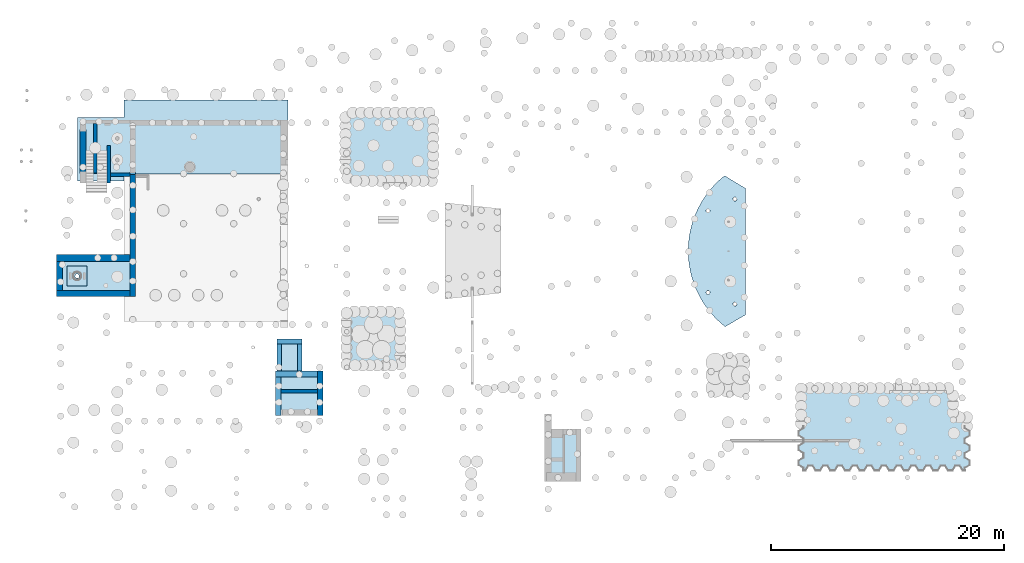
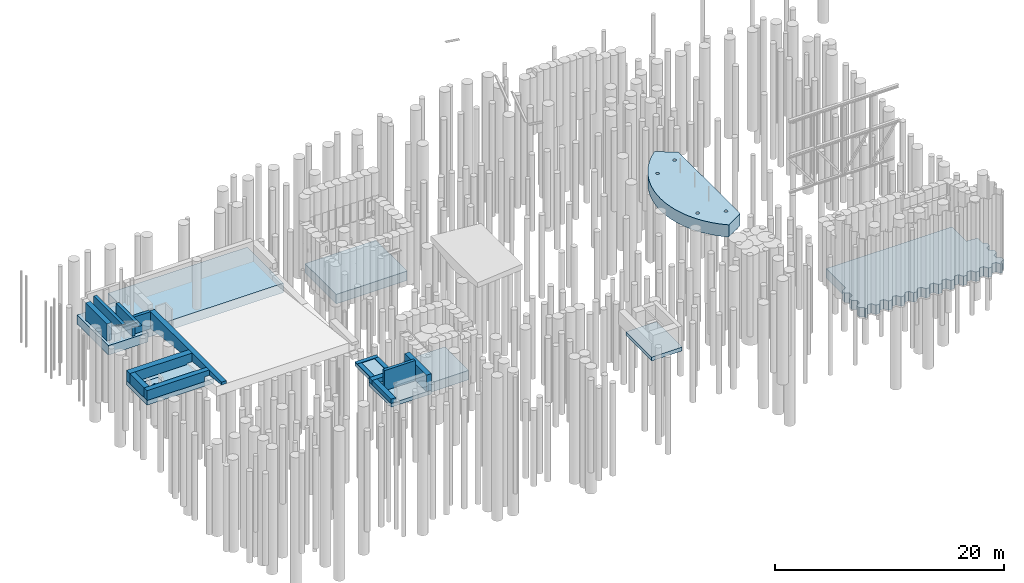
# One storey, part 14 of 104: 15 walls, 10 slabs, 11 openings.
"""IFC2X3 building model written with IfcOpenShell, lengths in millimetres."""

from ifc_helpers import new_model, entity, si_unit, converted_unit, derived_unit, direction, frame, frame_2d, origin, origin_2d_with_axis, place, context, subcontext, project, spatial, polyline, circle_curve, parameter, trimmed, segment, composite_curve, rectangle, circle, outline, extrude, clip, halfspace, bounded_halfspace, material, layer, layer_set, layer_usage, type_object, element, save


model = new_model("IFC2X3")

# Units and contexts
model_context = context("Model", 3, precision=0.01, world=origin(), true_north=direction((6.12303176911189e-17, 1.0)))
body_context = subcontext(model_context, "Body", "Model", "MODEL_VIEW")
ifc_project = project(units=[si_unit("LENGTHUNIT", "METRE", prefix="MILLI"), si_unit("AREAUNIT", "SQUARE_METRE", prefix="MILLI"), si_unit("VOLUMEUNIT", "CUBIC_METRE"), converted_unit("PLANEANGLEUNIT", "DEGREE", entity("IfcRatioMeasure", 0.0174532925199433), si_unit("PLANEANGLEUNIT", "RADIAN"), dimensions=[0, 0, 0, 0, 0, 0, 0]), si_unit("MASSUNIT", "GRAM", prefix="KILO"), derived_unit("MASSDENSITYUNIT", [(si_unit("MASSUNIT", "GRAM", prefix="KILO"), 1), (si_unit("LENGTHUNIT", "METRE"), -3)]), derived_unit("MOMENTOFINERTIAUNIT", [(si_unit("LENGTHUNIT", "METRE"), 4)]), si_unit("TIMEUNIT", "SECOND"), si_unit("FREQUENCYUNIT", "HERTZ"), si_unit("THERMODYNAMICTEMPERATUREUNIT", "DEGREE_CELSIUS"), derived_unit("THERMALTRANSMITTANCEUNIT", [(si_unit("MASSUNIT", "GRAM", prefix="KILO"), 1), (si_unit("THERMODYNAMICTEMPERATUREUNIT", "KELVIN"), -1), (si_unit("TIMEUNIT", "SECOND"), -3)]), derived_unit("VOLUMETRICFLOWRATEUNIT", [(si_unit("LENGTHUNIT", "METRE"), 3), (si_unit("TIMEUNIT", "SECOND"), -1)]), si_unit("ELECTRICCURRENTUNIT", "AMPERE"), si_unit("ELECTRICVOLTAGEUNIT", "VOLT"), si_unit("POWERUNIT", "WATT"), si_unit("FORCEUNIT", "NEWTON", prefix="KILO"), si_unit("ILLUMINANCEUNIT", "LUX"), si_unit("LUMINOUSFLUXUNIT", "LUMEN"), si_unit("LUMINOUSINTENSITYUNIT", "CANDELA"), derived_unit("USERDEFINED", [(si_unit("MASSUNIT", "GRAM", prefix="KILO"), -1), (si_unit("LENGTHUNIT", "METRE"), -2), (si_unit("TIMEUNIT", "SECOND"), 3), (si_unit("LUMINOUSFLUXUNIT", "LUMEN"), 1)]), derived_unit("LINEARVELOCITYUNIT", [(si_unit("LENGTHUNIT", "METRE"), 1), (si_unit("TIMEUNIT", "SECOND"), -1)]), si_unit("PRESSUREUNIT", "PASCAL"), derived_unit("USERDEFINED", [(si_unit("LENGTHUNIT", "METRE"), -2), (si_unit("MASSUNIT", "GRAM", prefix="KILO"), 1), (si_unit("TIMEUNIT", "SECOND"), -2)]), derived_unit("LINEARFORCEUNIT", [(si_unit("MASSUNIT", "GRAM", prefix="KILO"), 1), (si_unit("LENGTHUNIT", "METRE"), 1), (si_unit("TIMEUNIT", "SECOND"), -2), (si_unit("LENGTHUNIT", "METRE"), -1)]), derived_unit("PLANARFORCEUNIT", [(si_unit("MASSUNIT", "GRAM", prefix="KILO"), 1), (si_unit("LENGTHUNIT", "METRE"), 1), (si_unit("TIMEUNIT", "SECOND"), -2), (si_unit("LENGTHUNIT", "METRE"), -2)])], contexts=[model_context])

# Site, building, storey
site_placement = place(None, origin())
site = spatial("IfcSite", under=ifc_project, at=site_placement, Name="Theater aan de Parade", CompositionType="ELEMENT")
building_placement = place(site_placement, origin())
building = spatial("IfcBuilding", under=site, at=building_placement, Name="Theater aan de Parade", CompositionType="ELEMENT")
storey_placement = place(building_placement, frame((0.0, 0.0, -5520.0)))
storey = spatial("IfcBuildingStorey", under=building, at=storey_placement, Name="-2 kelder", CompositionType="ELEMENT", Elevation=-5520.0)

# Slab, openings
ifc_material_1 = material(Name="00_PBT_MAT_beton t.p.g.")
ifc_layer_1 = layer(ifc_material_1, 1300.0)
ifc_layer_set_1 = layer_set([ifc_layer_1], Name="Foundation Slab:13_PBT_FS_beton t.p.g._d=1300_bestaand")
ifc_layer_usage_1 = layer_usage(ifc_layer_set_1, "AXIS3", "POSITIVE", 0.0)
slab_type_1 = type_object("IfcSlabType", Name="Foundation Slab:13_PBT_FS_beton t.p.g._d=1300_bestaand", PredefinedType="BASESLAB", material=ifc_layer_set_1)
slab_1_placement = place(storey_placement, frame((64117.9856623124, 25972.8245508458, -300.0)))
slab_1 = element("IfcSlab", 1, at=slab_1_placement, inside=storey, type_object=slab_type_1, material=ifc_layer_usage_1, Name="Foundation Slab:13_PBT_FS_beton t.p.g._d=1300_bestaand", ObjectType="Foundation Slab:13_PBT_FS_beton t.p.g._d=1300_bestaand", PredefinedType="BASESLAB", context=body_context, shape_type="SweptSolid", body=[
    extrude(outline(composite_curve([segment(polyline([(-1580.15372492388, -5559.71459536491), (148.596425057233, -6574.17060615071)]), True, "CONTINUOUS"), segment(trimmed(circle_curve(frame_2d((-4906.79468890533, -81.5485075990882), x_axis=(-1.0, 0.0)), 8228.67674840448), [parameter(127.905619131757)], [parameter(231.591287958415)], True, "PARAMETER"), True, "CONTINUOUS"), segment(polyline([(205.410107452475, 6366.43436689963), (-1580.15372492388, 5285.72428137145)]), True, "CONTINUOUS"), segment(polyline([(-1580.15372492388, 5285.72428137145), (-1580.15372492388, -5559.71459536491)]), True, "CONTINUOUS")], self_intersect=False)), frame((3321.86061276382, 6574.17060615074, 1300.0), z_axis=(0.0, 0.0, -1.0), x_axis=(-1.0, 0.0, 0.0)), (0.0, 0.0, 1.0), 1300.0),
])
opening_1_placement = place(slab_1_placement, frame((4002.01433768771, 10937.175449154, 1300.0)))
element("IfcOpeningElement", 2, at=opening_1_placement, cuts=slab_1, Name="Foundation Slab:13_PBT_FS_beton t.p.g._d=1300_bestaand:2", ObjectType="Opening", context=body_context, shape_type="SweptSolid", body=[
    extrude(circle(Radius=161.95, at=origin_2d_with_axis()), frame((0.0, 0.0, 0.0), z_axis=(0.0, 0.0, -1.0), x_axis=(1.0, 0.0, 0.0)), (0.0, 0.0, 1.0), 1300.0),
])
opening_2_placement = place(slab_1_placement, frame((1702.01433768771, 9937.17544915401, 1300.0)))
element("IfcOpeningElement", 3, at=opening_2_placement, cuts=slab_1, Name="Foundation Slab:13_PBT_FS_beton t.p.g._d=1300_bestaand:3", ObjectType="Opening", context=body_context, shape_type="SweptSolid", body=[
    extrude(circle(Radius=161.95, at=origin_2d_with_axis()), frame((0.0, 0.0, 0.0), z_axis=(0.0, 0.0, -1.0), x_axis=(1.0, 0.0, 0.0)), (0.0, 0.0, 1.0), 1300.0),
])
opening_3_placement = place(slab_1_placement, frame((4002.01433768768, 1937.17544915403, 1300.0)))
element("IfcOpeningElement", 4, at=opening_3_placement, cuts=slab_1, Name="Foundation Slab:13_PBT_FS_beton t.p.g._d=1300_bestaand:4", ObjectType="Opening", context=body_context, shape_type="SweptSolid", body=[
    extrude(circle(Radius=161.95, at=origin_2d_with_axis()), frame((0.0, 0.0, 0.0), z_axis=(0.0, 0.0, -1.0), x_axis=(1.0, 0.0, 0.0)), (0.0, 0.0, 1.0), 1300.0),
])
opening_4_placement = place(slab_1_placement, frame((1702.01433768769, 2937.17544915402, 1300.0)))
element("IfcOpeningElement", 5, at=opening_4_placement, cuts=slab_1, Name="Foundation Slab:13_PBT_FS_beton t.p.g._d=1300_bestaand:5", ObjectType="Opening", context=body_context, shape_type="SweptSolid", body=[
    extrude(circle(Radius=161.95, at=origin_2d_with_axis()), frame((0.0, 0.0, 0.0), z_axis=(0.0, 0.0, -1.0), x_axis=(1.0, 0.0, 0.0)), (0.0, 0.0, 1.0), 1300.0),
])

# Slabs
ifc_layer_2 = layer(ifc_material_1, 400.0)
ifc_layer_set_2 = layer_set([ifc_layer_2], Name="Foundation Slab:13_PBT_FS_beton t.p.g._d=400_bestaand")
ifc_layer_usage_2 = layer_usage(ifc_layer_set_2, "AXIS3", "POSITIVE", 0.0)
slab_type_2 = type_object("IfcSlabType", Name="Foundation Slab:13_PBT_FS_beton t.p.g._d=400_bestaand", PredefinedType="BASESLAB", material=ifc_layer_set_2)
slab_2_placement = place(storey_placement, origin())
element("IfcSlab", 6, at=slab_2_placement, inside=storey, type_object=slab_type_2, material=ifc_layer_usage_2, Name="Foundation Slab:13_PBT_FS_beton t.p.g._d=400_bestaand", ObjectType="Foundation Slab:13_PBT_FS_beton t.p.g._d=400_bestaand", PredefinedType="BASESLAB", context=body_context, shape_type="SweptSolid", body=[
    extrude(rectangle(XDim=4490.0000000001, YDim=3090.0, at=frame_2d((0.0, -8.64019966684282e-12), x_axis=(1.0, 0.0))), frame((53370.0, 14955.0, 320.0), z_axis=(0.0, 0.0, -1.0), x_axis=(0.0, 1.0, 0.0)), (0.0, 0.0, 1.0), 400.0),
])
ifc_layer_usage_3 = layer_usage(ifc_layer_set_2, "AXIS3", "POSITIVE", 0.0)
slab_type_3 = type_object("IfcSlabType", Name="Foundation Slab:13_PBT_FS_beton t.p.g._d=400_bestaand", PredefinedType="BASESLAB", material=ifc_layer_set_2)
slab_3_placement = place(storey_placement, origin())
element("IfcSlab", 7, at=slab_3_placement, inside=storey, type_object=slab_type_3, material=ifc_layer_usage_3, Name="Foundation Slab:13_PBT_FS_beton t.p.g._d=400_bestaand", ObjectType="Foundation Slab:13_PBT_FS_beton t.p.g._d=400_bestaand", PredefinedType="BASESLAB", context=body_context, shape_type="SweptSolid", body=[
    extrude(rectangle(XDim=3800.00000000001, YDim=4100.00000000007, at=origin_2d_with_axis()), frame((30790.0, 20265.0, 20.0), z_axis=(0.0, 0.0, -1.0), x_axis=(0.0, 1.0, 0.0)), (0.0, 0.0, 1.0), 400.0),
])
ifc_layer_usage_4 = layer_usage(ifc_layer_set_2, "AXIS3", "POSITIVE", 0.0)
slab_type_4 = type_object("IfcSlabType", Name="Foundation Slab:13_PBT_FS_beton t.p.g._d=400_bestaand", PredefinedType="BASESLAB", material=ifc_layer_set_2)
slab_4_placement = place(storey_placement, origin())
element("IfcSlab", 8, at=slab_4_placement, inside=storey, type_object=slab_type_4, material=ifc_layer_usage_4, Name="Foundation Slab:13_PBT_FS_beton t.p.g._d=400_bestaand", ObjectType="Foundation Slab:13_PBT_FS_beton t.p.g._d=400_bestaand", PredefinedType="BASESLAB", context=body_context, shape_type="SweptSolid", body=[
    extrude(rectangle(XDim=2735.0, YDim=2150.0, at=frame_2d((0.0, 2.1600499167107e-12), x_axis=(1.0, 0.0))), frame((29965.0, 23532.4999999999, 420.0), z_axis=(0.0, 0.0, -1.0), x_axis=(0.0, 1.0, 0.0)), (0.0, 0.0, 1.0), 400.0),
])

# Slab, openings
ifc_layer_3 = layer(ifc_material_1, 500.0)
ifc_layer_set_3 = layer_set([ifc_layer_3], Name="Foundation Slab:13_PBT_FS_beton t.p.g._d=500_bestaand")
ifc_layer_usage_5 = layer_usage(ifc_layer_set_3, "AXIS3", "POSITIVE", 0.0)
slab_type_5 = type_object("IfcSlabType", Name="Foundation Slab:13_PBT_FS_beton t.p.g._d=500_bestaand", PredefinedType="BASESLAB", material=ifc_layer_set_3)
slab_5_placement = place(storey_placement, frame((9990.0, 28565.0, 220.0)))
slab_5 = element("IfcSlab", 9, at=slab_5_placement, inside=storey, type_object=slab_type_5, material=ifc_layer_usage_5, Name="Foundation Slab:13_PBT_FS_beton t.p.g._d=500_bestaand", ObjectType="Foundation Slab:13_PBT_FS_beton t.p.g._d=500_bestaand", PredefinedType="BASESLAB", context=body_context, shape_type="SweptSolid", body=[
    extrude(rectangle(XDim=6785.0, YDim=3600.0, at=origin_2d_with_axis()), frame((3392.5, 1800.0, 500.0), z_axis=(0.0, 0.0, -1.0), x_axis=(-1.0, 0.0, 0.0)), (0.0, 0.0, 1.0), 500.0),
])
opening_5_placement = place(slab_5_placement, origin())
element("IfcOpeningElement", 10, at=opening_5_placement, cuts=slab_5, ObjectType="Opening", context=body_context, shape_type="SweptSolid", body=[
    extrude(rectangle(XDim=1700.0, YDim=1700.0, at=origin_2d_with_axis()), frame((1770.0, 1750.0, 250.0), z_axis=(0.0, 0.0, 1.0), x_axis=(-1.0, 0.0, 0.0)), (0.0, 0.0, 1.0), 250.0),
])
opening_6_placement = place(slab_5_placement, frame((1770.0, 1750.0, 500.0)))
element("IfcOpeningElement", 11, at=opening_6_placement, cuts=slab_5, Name="Foundation Slab:13_PBT_FS_beton t.p.g._d=500_bestaand:2", ObjectType="Opening", context=body_context, shape_type="SweptSolid", body=[
    extrude(circle(Radius=350.000000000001, at=origin_2d_with_axis()), frame((0.0, 0.0, 0.0), z_axis=(0.0, 0.0, -1.0), x_axis=(1.0, 0.0, 0.0)), (0.0, 0.0, 1.0), 500.0),
])

# Slabs
ifc_layer_4 = layer(ifc_material_1, 1000.0)
ifc_layer_set_4 = layer_set([ifc_layer_4], Name="Foundation Slab:13_PBT_FS_beton t.p.g._d=1000_bestaand")
ifc_layer_usage_6 = layer_usage(ifc_layer_set_4, "AXIS3", "POSITIVE", 0.0)
slab_type_6 = type_object("IfcSlabType", Name="Foundation Slab:13_PBT_FS_beton t.p.g._d=1000_bestaand", PredefinedType="BASESLAB", material=ifc_layer_set_4)
slab_6_placement = place(storey_placement, origin())
element("IfcSlab", 12, at=slab_6_placement, inside=storey, type_object=slab_type_6, material=ifc_layer_usage_6, Name="Foundation Slab:13_PBT_FS_beton t.p.g._d=1000_bestaand", ObjectType="Foundation Slab:13_PBT_FS_beton t.p.g._d=1000_bestaand", PredefinedType="BASESLAB", context=body_context, shape_type="SweptSolid", body=[
    extrude(outline(polyline([(-3250.0, -6512.5), (2200.0, -6512.5), (2200.0, -2512.50000000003), (3700.0, -2512.50000000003), (3700.0, 11537.5), (-2650.0, 11537.5), (-2650.0, -2512.49999999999), (-3250.0, -2512.49999999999), (-3250.0, -6512.5)])), frame((18287.5000000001, 41700.0, -40.0), z_axis=(0.0, 0.0, -1.0), x_axis=(0.0, 1.0, 0.0)), (0.0, 0.0, 1.0), 1000.0),
])
ifc_layer_5 = layer(ifc_material_1, 250.0)
ifc_layer_set_5 = layer_set([ifc_layer_5], Name="Foundation Slab:13_PBT_FS_beton t.p.g._d=250_bestaand")
ifc_layer_usage_7 = layer_usage(ifc_layer_set_5, "AXIS3", "POSITIVE", 0.0)
slab_type_7 = type_object("IfcSlabType", Name="Foundation Slab:13_PBT_FS_beton t.p.g._d=250_bestaand", PredefinedType="BASESLAB", material=ifc_layer_set_5)
slab_7_placement = place(storey_placement, origin())
element("IfcSlab", 13, at=slab_7_placement, inside=storey, type_object=slab_type_7, material=ifc_layer_usage_7, Name="Foundation Slab:13_PBT_FS_beton t.p.g._d=250_bestaand", ObjectType="Foundation Slab:13_PBT_FS_beton t.p.g._d=250_bestaand", PredefinedType="BASESLAB", context=body_context, shape_type="SweptSolid", body=[
    extrude(outline(polyline([(-850.0, -850.0), (850.0, -850.0), (850.0, 850.0), (-850.0, 850.0), (-850.0, -850.0)]), holes=[composite_curve([segment(trimmed(circle_curve(frame_2d((0.0, 0.0), x_axis=(0.0, -1.0)), 175.0), [parameter(180.0)], [parameter(0.0)], True, "PARAMETER"), False, "CONTINUOUS"), segment(trimmed(circle_curve(frame_2d((0.0, 0.0), x_axis=(0.0, -1.0)), 175.0), [parameter(0.0)], [parameter(180.0)], True, "PARAMETER"), False, "CONTINUOUS")], self_intersect=False)]), frame((11760.0, 30315.0, 470.0), z_axis=(0.0, 0.0, 1.0), x_axis=(0.0, 1.0, 0.0)), (0.0, 0.0, 1.0), 249.999999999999),
])
ifc_material_2 = material(Name="00_PBT_MAT_grout")
ifc_layer_6 = layer(ifc_material_2, 1000.0)
ifc_layer_set_6 = layer_set([ifc_layer_6], Name="Foundation Slab:13_PBT_FS_grout bouwputbodem_d=1000")
ifc_layer_usage_8 = layer_usage(ifc_layer_set_6, "AXIS3", "POSITIVE", 0.0)
slab_type_8 = type_object("IfcSlabType", Name="Foundation Slab:13_PBT_FS_grout bouwputbodem_d=1000", PredefinedType="BASESLAB", material=ifc_layer_set_6)
slab_8_placement = place(storey_placement, origin())
element("IfcSlab", 14, at=slab_8_placement, inside=storey, type_object=slab_type_8, material=ifc_layer_usage_8, Name="Foundation Slab:13_PBT_FS_grout bouwputbodem_d=1000", ObjectType="Foundation Slab:13_PBT_FS_grout bouwputbodem_d=1000", PredefinedType="BASESLAB", context=body_context, shape_type="SweptSolid", body=[
    extrude(outline(polyline([(-591.572534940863, -7486.72199506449), (-222.005520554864, -7486.72199506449), (32.0917391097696, -7072.72199506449), (414.330205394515, -7072.7219950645), (668.427465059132, -7486.72199506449), (1037.99447944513, -7486.72199506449), (1292.09173910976, -7072.7219950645), (1674.3302053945, -7072.7219950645), (1928.42746505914, -7486.72199506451), (2297.99447944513, -7486.72199506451), (2592.90687864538, -7006.22199506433), (5987.13412494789, -7006.22199506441), (5987.13412494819, 5723.77800493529), (3487.13412494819, 5723.77800493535), (3371.9631847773, 6823.77800493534), (2499.27451312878, 6823.77800493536), (2294.67161300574, 7157.13697449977), (1925.10459861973, 7157.13697449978), (1671.0073389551, 6743.13697449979), (1288.76887267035, 6743.1369744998), (1034.67161300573, 7157.1369744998), (665.104598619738, 7157.13697449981), (411.007338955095, 6743.13697449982), (28.7688726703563, 6743.13697449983), (-225.328386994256, 7157.13697449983), (-594.895401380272, 7157.13697449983), (-848.992661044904, 6743.13697449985), (-1051.51902774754, 6743.13697449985), (-1051.51902774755, 6583.22449774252), (-637.519027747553, 6329.12723807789), (-637.519027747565, 5946.88877179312), (-1051.51902774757, 5692.79151212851), (-1051.51902774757, 5323.22449774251), (-637.519027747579, 5069.12723807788), (-637.51902774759, 4686.88877179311), (-1051.51902774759, 4432.79151212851), (-1051.5190277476, 4063.2244977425), (-637.519027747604, 3809.12723807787), (-637.519027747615, 3426.88877179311), (-1051.51902774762, 3172.7915121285), (-1051.51902774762, 2803.22449774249), (-637.519027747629, 2549.12723807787), (-637.51902774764, 2166.8887717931), (-1051.51902774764, 1912.79151212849), (-1051.51902774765, 1543.22449774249), (-637.519027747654, 1289.12723807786), (-637.519027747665, 906.888771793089), (-1051.51902774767, 652.791512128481), (-1051.51902774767, 283.224497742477), (-637.51902774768, 29.1272380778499), (-637.519027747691, -353.111228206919), (-1051.51902774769, -607.208487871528), (-1051.5190277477, -976.775502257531), (-637.519027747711, -1230.87276192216), (-637.519027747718, -1613.11122820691), (-1051.51902774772, -1867.20848787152), (-1051.51902774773, -2236.77550225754), (-637.519027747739, -2490.87276192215), (-637.51902774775, -2873.11122820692), (-1051.51902774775, -3127.20848787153), (-1051.51902774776, -3496.77550225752), (-637.519027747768, -3750.87276192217), (-637.519027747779, -4133.11122820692), (-1051.51902774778, -4387.20848787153), (-1051.51902774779, -4756.77550225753), (-637.5190277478, -5010.87276192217), (-637.519027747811, -5393.11122820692), (-1051.51902774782, -5647.20848787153), (-1051.51902774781, -6016.77550225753), (-637.519027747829, -6270.87276192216), (-637.519027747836, -6653.11122820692), (-1051.51902774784, -6907.20848787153), (-1051.51902774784, -7072.72199506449), (-845.669794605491, -7072.72199506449), (-591.572534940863, -7486.72199506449)])), frame((81076.2219950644, 14716.8418941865, -2840.0), z_axis=(0.0, 0.0, -1.0), x_axis=(0.0, 1.0, 0.0)), (0.0, 0.0, 1.0), 1000.0),
])
ifc_layer_usage_9 = layer_usage(ifc_layer_set_6, "AXIS3", "POSITIVE", 0.0)
slab_type_9 = type_object("IfcSlabType", Name="Foundation Slab:13_PBT_FS_grout bouwputbodem_d=1000", PredefinedType="BASESLAB", material=ifc_layer_set_6)
slab_9_placement = place(storey_placement, origin())
element("IfcSlab", 15, at=slab_9_placement, inside=storey, type_object=slab_type_9, material=ifc_layer_usage_9, Name="Foundation Slab:13_PBT_FS_grout bouwputbodem_d=1000", ObjectType="Foundation Slab:13_PBT_FS_grout bouwputbodem_d=1000", PredefinedType="BASESLAB", context=body_context, shape_type="SweptSolid", body=[
    extrude(rectangle(XDim=4160.0, YDim=4200.0, at=frame_2d((2.27373675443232e-12, 0.0), x_axis=(1.0, 0.0))), frame((37105.0, 24962.3674033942, -2840.0), z_axis=(0.0, 0.0, -1.0), x_axis=(0.0, 1.0, 0.0)), (0.0, 0.0, 1.0), 1000.0),
])
ifc_layer_usage_10 = layer_usage(ifc_layer_set_6, "AXIS3", "POSITIVE", 0.0)
slab_type_10 = type_object("IfcSlabType", Name="Foundation Slab:13_PBT_FS_grout bouwputbodem_d=1000", PredefinedType="BASESLAB", material=ifc_layer_set_6)
slab_10_placement = place(storey_placement, origin())
element("IfcSlab", 16, at=slab_10_placement, inside=storey, type_object=slab_type_10, material=ifc_layer_usage_10, Name="Foundation Slab:13_PBT_FS_grout bouwputbodem_d=1000", ObjectType="Foundation Slab:13_PBT_FS_grout bouwputbodem_d=1000", PredefinedType="BASESLAB", context=body_context, shape_type="SweptSolid", body=[
    extrude(rectangle(XDim=5463.8990249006, YDim=7171.14182591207, at=frame_2d((0.0, 4.32009983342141e-12), x_axis=(1.0, 0.0))), frame((38539.4290870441, 41431.9495124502, -2840.0), z_axis=(0.0, 0.0, -1.0), x_axis=(0.0, 1.0, 0.0)), (0.0, 0.0, 1.0), 1000.0),
])

# Wall, openings
ifc_layer_7 = layer(ifc_material_1, 300.0)
ifc_layer_set_7 = layer_set([ifc_layer_7], Name="Basic Wall:28_PBT_WA_beton t.p.g._d=300_bestaand")
ifc_layer_usage_11 = layer_usage(ifc_layer_set_7, "AXIS2", "POSITIVE", -150.0)
wall_type_1 = type_object("IfcWallType", Name="Basic Wall:28_PBT_WA_beton t.p.g._d=300_bestaand", PredefinedType="STANDARD", material=ifc_layer_set_7)
wall_1_placement = place(storey_placement, frame((14460.0, 37416.6178623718, -40.0), z_axis=(0.0, 0.0, 1.0), x_axis=(0.0, 1.0, 0.0)))
wall_1 = element("IfcWallStandardCase", 17, at=wall_1_placement, inside=storey, type_object=wall_type_1, material=ifc_layer_usage_11, Name="Basic Wall:28_PBT_WA_beton t.p.g._d=300_bestaand", ObjectType="Basic Wall:28_PBT_WA_beton t.p.g._d=300_bestaand", context=body_context, shape_type="SweptSolid", body=[
    extrude(rectangle(XDim=4063.38213762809, YDim=300.000000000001, at=frame_2d((2031.69106881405, 3.5527136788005e-13), x_axis=(-1.0, 0.0))), origin(), (0.0, 0.0, 1.0), 1820.0),
])
opening_7_placement = place(wall_1_placement, origin())
element("IfcOpeningElement", 18, at=opening_7_placement, cuts=wall_1, Name="Basic Wall:28_PBT_WA_beton t.p.g._d=300_bestaand", ObjectType="Opening", context=body_context, shape_type="SweptSolid", body=[
    extrude(outline(polyline([(-715.0, -616.691068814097), (325.0, -616.691068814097), (1105.0, 616.691068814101), (-715.0, 616.691068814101), (-715.0, -616.691068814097)])), frame((616.691068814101, 150.0, 715.0), z_axis=(0.0, -1.0, 0.0), x_axis=(0.0, 0.0, 1.0)), (0.0, 0.0, 1.0), 300.0),
])
opening_8_placement = place(wall_1_placement, origin())
element("IfcOpeningElement", 19, at=opening_8_placement, cuts=wall_1, Name="Basic Wall:28_PBT_WA_beton t.p.g._d=300_bestaand", ObjectType="Opening", context=body_context, shape_type="SweptSolid", body=[
    extrude(rectangle(XDim=399.999999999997, YDim=2480.00000000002, at=frame_2d((0.0, 4.32009983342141e-12), x_axis=(1.0, 0.0))), frame((2823.38213762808, 150.0, 2020.0), z_axis=(0.0, -1.0, 0.0), x_axis=(0.0, 0.0, -1.0)), (0.0, 0.0, 1.0), 300.0),
])

# Walls
ifc_layer_usage_12 = layer_usage(ifc_layer_set_7, "AXIS2", "POSITIVE", -150.0)
wall_2_placement = place(storey_placement, frame((16275.0, 39000.0, -40.0), z_axis=(0.0, 0.0, 1.0), x_axis=(-1.0, 0.0, 0.0)))
element("IfcWallStandardCase", 20, at=wall_2_placement, inside=storey, type_object=wall_type_1, material=ifc_layer_usage_12, Name="Basic Wall:28_PBT_WA_beton t.p.g._d=300_bestaand", ObjectType="Basic Wall:28_PBT_WA_beton t.p.g._d=300_bestaand", context=body_context, shape_type="SweptSolid", body=[
    extrude(rectangle(XDim=1665.0, YDim=299.999999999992, at=frame_2d((832.500000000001, 2.71427325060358e-12), x_axis=(-1.0, 0.0))), origin(), (0.0, 0.0, 1.0), 1820.0),
])
ifc_layer_8 = layer(ifc_material_1, 400.0)
ifc_layer_set_8 = layer_set([ifc_layer_8], Name="Basic Wall:16_PBT_WA_beton t.p.g._d=400_bestaand")
ifc_layer_usage_13 = layer_usage(ifc_layer_set_8, "AXIS2", "NEGATIVE", 200.0)
wall_type_2 = type_object("IfcWallType", Name="Basic Wall:16_PBT_WA_beton t.p.g._d=400_bestaand", PredefinedType="STANDARD", material=ifc_layer_set_8)
wall_3_placement = place(storey_placement, frame((31040.0, 24700.0, 420.0), z_axis=(0.0, 0.0, 1.0), x_axis=(-1.0, 0.0, 0.0)))
element("IfcWallStandardCase", 21, at=wall_3_placement, inside=storey, type_object=wall_type_2, material=ifc_layer_usage_13, Name="Basic Wall:16_PBT_WA_beton t.p.g._d=400_bestaand", ObjectType="Basic Wall:16_PBT_WA_beton t.p.g._d=400_bestaand", context=body_context, shape_type="SweptSolid", body=[
    extrude(rectangle(XDim=2150.00000000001, YDim=399.999999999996, at=frame_2d((1075.0, -1.53477230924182e-12), x_axis=(-1.0, 0.0))), origin(), (0.0, 0.0, 1.0), 59.9999999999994),
])
ifc_layer_usage_14 = layer_usage(ifc_layer_set_8, "AXIS2", "NEGATIVE", 200.0)
wall_4_placement = place(storey_placement, frame((29090.0, 24500.0, 420.0), z_axis=(0.0, 0.0, 1.0), x_axis=(0.0, -1.0, 0.0)))
element("IfcWallStandardCase", 22, at=wall_4_placement, inside=storey, type_object=wall_type_2, material=ifc_layer_usage_14, Name="Basic Wall:16_PBT_WA_beton t.p.g._d=400_bestaand", ObjectType="Basic Wall:16_PBT_WA_beton t.p.g._d=400_bestaand", context=body_context, shape_type="SweptSolid", body=[
    extrude(rectangle(XDim=2335.00000000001, YDim=399.999999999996, at=frame_2d((1167.5, 0.0), x_axis=(-1.0, 0.0))), origin(), (0.0, 0.0, 1.0), 60.0000000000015),
])
ifc_layer_usage_15 = layer_usage(ifc_layer_set_8, "AXIS2", "NEGATIVE", 200.0)
wall_5_placement = place(storey_placement, frame((30840.0, 24500.0, 420.0), z_axis=(0.0, 0.0, 1.0), x_axis=(0.0, -1.0, 0.0)))
element("IfcWallStandardCase", 23, at=wall_5_placement, inside=storey, type_object=wall_type_2, material=ifc_layer_usage_15, Name="Basic Wall:16_PBT_WA_beton t.p.g._d=400_bestaand", ObjectType="Basic Wall:16_PBT_WA_beton t.p.g._d=400_bestaand", context=body_context, shape_type="SweptSolid", body=[
    extrude(rectangle(XDim=2335.00000000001, YDim=399.999999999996, at=frame_2d((1167.5, 0.0), x_axis=(-1.0, 0.0))), origin(), (0.0, 0.0, 1.0), 60.0000000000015),
])
ifc_layer_9 = layer(ifc_material_1, 500.0)
ifc_layer_set_9 = layer_set([ifc_layer_9], Name="Basic Wall:16_PBT_WA_beton t.p.g._d=500_bestaand")
ifc_layer_usage_16 = layer_usage(ifc_layer_set_9, "AXIS2", "NEGATIVE", 250.0)
wall_type_3 = type_object("IfcWallType", Name="Basic Wall:16_PBT_WA_beton t.p.g._d=500_bestaand", PredefinedType="STANDARD", material=ifc_layer_set_9)
wall_6_placement = place(storey_placement, frame((32590.0, 22190.0, 20.0), z_axis=(0.0, 0.0, 1.0), x_axis=(0.0, -1.0, 0.0)))
element("IfcWallStandardCase", 24, at=wall_6_placement, inside=storey, type_object=wall_type_3, material=ifc_layer_usage_16, Name="Basic Wall:16_PBT_WA_beton t.p.g._d=500_bestaand", ObjectType="Basic Wall:16_PBT_WA_beton t.p.g._d=500_bestaand", context=body_context, shape_type="SweptSolid", body=[
    extrude(rectangle(XDim=3824.99999999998, YDim=499.999999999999, at=frame_2d((1912.49999999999, 3.12638803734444e-13), x_axis=(-1.0, 0.0))), origin(), (0.0, 0.0, 1.0), 1760.0),
])
ifc_layer_usage_17 = layer_usage(ifc_layer_set_9, "AXIS2", "NEGATIVE", 250.0)
wall_7_placement = place(storey_placement, frame((32590.0, 21915.0, 20.0), z_axis=(0.0, 0.0, 1.0), x_axis=(-1.0, 0.0, 0.0)))
element("IfcWallStandardCase", 25, at=wall_7_placement, inside=storey, type_object=wall_type_3, material=ifc_layer_usage_17, Name="Basic Wall:16_PBT_WA_beton t.p.g._d=500_bestaand", ObjectType="Basic Wall:16_PBT_WA_beton t.p.g._d=500_bestaand", context=body_context, shape_type="SweptSolid", body=[
    extrude(rectangle(XDim=3850.00000000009, YDim=499.999999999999, at=frame_2d((1925.00000000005, -1.05160324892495e-12), x_axis=(-1.0, 0.0))), origin(), (0.0, 0.0, 1.0), 459.999999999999),
])
ifc_layer_usage_18 = layer_usage(ifc_layer_set_9, "AXIS2", "POSITIVE", -250.0)
wall_8_placement = place(storey_placement, frame((28990.0, 21665.0, 20.0), z_axis=(0.0, 0.0, 1.0), x_axis=(0.0, -1.0, 0.0)))
element("IfcWallStandardCase", 26, at=wall_8_placement, inside=storey, type_object=wall_type_3, material=ifc_layer_usage_18, Name="Basic Wall:16_PBT_WA_beton t.p.g._d=500_bestaand", ObjectType="Basic Wall:16_PBT_WA_beton t.p.g._d=500_bestaand", context=body_context, shape_type="SweptSolid", body=[
    extrude(rectangle(XDim=3300.00000000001, YDim=499.999999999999, at=frame_2d((1650.00000000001, -1.26476606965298e-12), x_axis=(-1.0, 0.0))), origin(), (0.0, 0.0, 1.0), 460.000000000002),
])
ifc_layer_usage_19 = layer_usage(ifc_layer_set_9, "AXIS2", "NEGATIVE", 250.0)
wall_9_placement = place(storey_placement, frame((16275.0, 28815.0, 720.0), z_axis=(0.0, 0.0, 1.0), x_axis=(-1.0, 0.0, 0.0)))
element("IfcWallStandardCase", 27, at=wall_9_placement, inside=storey, type_object=wall_type_3, material=ifc_layer_usage_19, Name="Basic Wall:16_PBT_WA_beton t.p.g._d=500_bestaand", ObjectType="Basic Wall:16_PBT_WA_beton t.p.g._d=500_bestaand", context=body_context, shape_type="Clipping", body=[
    clip(clip(extrude(rectangle(XDim=6285.00000000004, YDim=499.999999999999, at=frame_2d((3142.50000000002, -3.5527136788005e-13), x_axis=(-1.0, 0.0))), origin(), (0.0, 0.0, 1.0), 1060.0), bounded_halfspace(frame((500.0, 250.0, 500.854430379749), z_axis=(0.0, -0.119393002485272, 0.992847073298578), x_axis=(0.0, -0.992847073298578, -0.119393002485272)), True, frame((500.0, 250.0, 500.854430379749), z_axis=(0.0, -0.119393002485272, 0.992847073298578), x_axis=(0.0, -0.992847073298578, -0.119393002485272)), polyline([(0.0, 0.0), (0.0, -500.0), (503.602229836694, -500.0), (503.602229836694, 0.0), (0.0, 0.0)]))), bounded_halfspace(frame((500.0, -250.0, 440.727848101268), z_axis=(1.0, 0.0, 0.0), x_axis=(0.0, 0.0, 1.0)), True, frame((500.0, -250.0, 440.727848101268), z_axis=(1.0, 0.0, 0.0), x_axis=(0.0, 0.0, 1.0)), polyline([(0.0, 0.0), (-440.727848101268, 0.0), (-440.727848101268, -500.0), (60.1265822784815, -500.0), (0.0, 0.0)]))),
])
ifc_layer_usage_20 = layer_usage(ifc_layer_set_9, "AXIS2", "NEGATIVE", 250.0)
wall_10_placement = place(storey_placement, frame((10240.0, 31565.0, 720.0), z_axis=(0.0, 0.0, 1.0), x_axis=(0.0, -1.0, 0.0)))
element("IfcWallStandardCase", 28, at=wall_10_placement, inside=storey, type_object=wall_type_3, material=ifc_layer_usage_20, Name="Basic Wall:16_PBT_WA_beton t.p.g._d=500_bestaand", ObjectType="Basic Wall:16_PBT_WA_beton t.p.g._d=500_bestaand", context=body_context, shape_type="SweptSolid", body=[
    extrude(rectangle(XDim=2500.0, YDim=499.999999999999, at=frame_2d((1250.0, -2.27373675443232e-13), x_axis=(-1.0, 0.0))), origin(), (0.0, 0.0, 1.0), 1060.0),
])
ifc_layer_10 = layer(ifc_material_1, 600.0)
ifc_layer_set_10 = layer_set([ifc_layer_10], Name="Basic Wall:16_PBT_WA_beton t.p.g._d=600_bestaand")
ifc_layer_usage_21 = layer_usage(ifc_layer_set_10, "AXIS2", "NEGATIVE", 300.0)
wall_type_4 = type_object("IfcWallType", Name="Basic Wall:16_PBT_WA_beton t.p.g._d=600_bestaand", PredefinedType="STANDARD", material=ifc_layer_set_10)
wall_11_placement = place(storey_placement, frame((16275.0, 31865.0, 720.0), z_axis=(0.0, 0.0, 1.0), x_axis=(-1.0, 0.0, 0.0)))
element("IfcWallStandardCase", 29, at=wall_11_placement, inside=storey, type_object=wall_type_4, material=ifc_layer_usage_21, Name="Basic Wall:16_PBT_WA_beton t.p.g._d=600_bestaand", ObjectType="Basic Wall:16_PBT_WA_beton t.p.g._d=600_bestaand", context=body_context, shape_type="Clipping", body=[
    clip(clip(extrude(rectangle(XDim=6285.00000000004, YDim=600.000000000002, at=frame_2d((3142.50000000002, -3.41060513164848e-13), x_axis=(-1.0, 0.0))), origin(), (0.0, 0.0, 1.0), 1060.0), bounded_halfspace(frame((500.0, 300.0, 140.094936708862), z_axis=(0.0, -0.119393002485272, 0.992847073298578), x_axis=(0.0, -0.992847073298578, -0.119393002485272)), True, frame((500.0, 300.0, 140.094936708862), z_axis=(0.0, -0.119393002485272, 0.992847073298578), x_axis=(0.0, -0.992847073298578, -0.119393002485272)), polyline([(0.0, 0.0), (0.0, -500.0), (604.322675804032, -500.0), (604.322675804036, 0.0), (0.0, 0.0)]))), bounded_halfspace(frame((500.0, -300.0, 67.9430379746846), z_axis=(1.0, 0.0, 0.0), x_axis=(0.0, 0.0, 1.0)), True, frame((500.0, -300.0, 67.9430379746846), z_axis=(1.0, 0.0, 0.0), x_axis=(0.0, 0.0, 1.0)), polyline([(0.0, 0.0), (-67.9430379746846, 0.0), (-67.9430379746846, -600.0), (72.1518987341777, -600.0), (0.0, 0.0)]))),
])

# Wall, opening
ifc_layer_11 = layer(ifc_material_1, 500.0)
ifc_layer_set_11 = layer_set([ifc_layer_11], Name="Basic Wall:28_PBT_WA_beton t.p.g._d=500_bestaand")
ifc_layer_usage_22 = layer_usage(ifc_layer_set_11, "AXIS2", "POSITIVE", -250.0)
wall_type_5 = type_object("IfcWallType", Name="Basic Wall:28_PBT_WA_beton t.p.g._d=500_bestaand", PredefinedType="STANDARD", material=ifc_layer_set_11)
wall_12_placement = place(storey_placement, frame((16525.0, 26410.0, -40.0), z_axis=(0.0, 0.0, 1.0), x_axis=(0.0, 1.0, 0.0)))
wall_12 = element("IfcWallStandardCase", 30, at=wall_12_placement, inside=storey, type_object=wall_type_5, material=ifc_layer_usage_22, Name="Basic Wall:28_PBT_WA_beton t.p.g._d=500_bestaand", ObjectType="Basic Wall:28_PBT_WA_beton t.p.g._d=500_bestaand", context=body_context, shape_type="Clipping", body=[
    clip(clip(extrude(rectangle(XDim=12839.9999999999, YDim=499.999999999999, at=frame_2d((6419.99999999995, -3.41060513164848e-13), x_axis=(-1.0, 0.0))), origin(), (0.0, 0.0, 1.0), 1820.0), bounded_halfspace(frame((12640.0, -250.0, 0.0), z_axis=(0.119393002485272, 0.0, 0.992847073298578), x_axis=(0.992847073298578, 0.0, -0.119393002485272)), True, frame((12640.0, -250.0, 0.0)), polyline([(0.0, 0.0), (0.0, 500.0), (-6885.0, 500.0), (-7485.0, 500.0), (-9985.0, 500.0), (-10485.0, 500.0), (-12640.0, 500.0), (-12640.0, 0.0), (0.0, 0.0)]))), bounded_halfspace(frame((0.0, -250.0, 1820.0), z_axis=(0.0, 0.0, -1.0), x_axis=(1.0, 0.0, 0.0)), True, frame((0.0, -250.0, 1820.0), z_axis=(0.0, 0.0, -1.0), x_axis=(1.0, 0.0, 0.0)), polyline([(0.0, 0.0), (0.0, -500.0), (2155.0, -500.0), (2655.0, -500.0), (5155.0, -500.0), (5755.0, -500.0), (12440.0, -500.0), (12740.0, -500.0), (12740.0, 0.0), (0.0, 0.0)]))),
])
opening_9_placement = place(wall_12_placement, origin())
element("IfcOpeningElement", 31, at=opening_9_placement, cuts=wall_12, Name="Basic Wall:28_PBT_WA_beton t.p.g._d=500_bestaand", ObjectType="Opening", context=body_context, shape_type="SweptSolid", body=[
    extrude(rectangle(XDim=680.000000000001, YDim=249.999999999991, at=frame_2d((-2.8421709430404e-13, -2.16715534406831e-12), x_axis=(1.0, 0.0))), frame((12715.0, 250.0, 1480.0), z_axis=(0.0, -1.0, 0.0), x_axis=(0.0, 0.0, 1.0)), (0.0, 0.0, 1.0), 500.0),
])

# Wall
ifc_layer_usage_23 = layer_usage(ifc_layer_set_11, "AXIS2", "POSITIVE", -250.0)
wall_13_placement = place(storey_placement, frame((12260.0, 39120.0, -40.0), z_axis=(0.0, 0.0, 1.0), x_axis=(0.0, 1.0, 0.0)))
element("IfcWallStandardCase", 32, at=wall_13_placement, inside=storey, type_object=wall_type_5, material=ifc_layer_usage_23, Name="Basic Wall:28_PBT_WA_beton t.p.g._d=500_bestaand", ObjectType="Basic Wall:28_PBT_WA_beton t.p.g._d=500_bestaand", context=body_context, shape_type="SweptSolid", body=[
    extrude(rectangle(XDim=3750.0, YDim=499.999999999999, at=frame_2d((1875.0, 5.82645043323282e-13), x_axis=(-1.0, 0.0))), origin(), (0.0, 0.0, 1.0), 1820.0),
])

# Wall, opening
ifc_material_3 = material(Name="00_PBT_MAT_beton t.p.g._C30/37")
ifc_layer_12 = layer(ifc_material_3, 300.0)
ifc_layer_set_12 = layer_set([ifc_layer_12], Name="Basic Wall:28_PBT_WA_beton t.p.g._d=300_C30/37")
ifc_layer_usage_24 = layer_usage(ifc_layer_set_12, "AXIS2", "NEGATIVE", 150.0)
wall_type_6 = type_object("IfcWallType", Name="Basic Wall:28_PBT_WA_beton t.p.g._d=300_C30/37", PredefinedType="STANDARD", material=ifc_layer_set_12)
wall_14_placement = place(storey_placement, frame((29240.0, 20461.367453, 20.0)))
wall_14 = element("IfcWallStandardCase", 33, at=wall_14_placement, inside=storey, type_object=wall_type_6, material=ifc_layer_usage_24, Name="Basic Wall:28_PBT_WA_beton t.p.g._d=300_C30/37", ObjectType="Basic Wall:28_PBT_WA_beton t.p.g._d=300_C30/37", context=body_context, shape_type="SweptSolid", body=[
    extrude(rectangle(XDim=3100.00000000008, YDim=300.000000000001, at=frame_2d((1550.00000000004, -3.12638803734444e-13), x_axis=(-1.0, 0.0))), origin(), (0.0, 0.0, 1.0), 2160.0),
])
opening_10_placement = place(wall_14_placement, origin())
element("IfcOpeningElement", 34, at=opening_10_placement, cuts=wall_14, Name="Basic Wall:28_PBT_WA_beton t.p.g._d=300_C30/37", ObjectType="Opening", context=body_context, shape_type="SweptSolid", body=[
    extrude(rectangle(XDim=2419.99999999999, YDim=1975.00000000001, at=frame_2d((-2.1600499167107e-12, 0.0), x_axis=(0.0, 1.0))), frame((1351.41343330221, -150.0, 3370.0), z_axis=(0.0, 1.0, 0.0), x_axis=(1.0, 0.0, 0.0)), (0.0, 0.0, 1.0), 300.000000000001),
])

ifc_layer_usage_25 = layer_usage(ifc_layer_set_12, "AXIS2", "NEGATIVE", 150.0)
wall_15_placement = place(storey_placement, frame((13304.8570025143, 43400.0, -40.0), z_axis=(0.0, 0.0, 1.0), x_axis=(0.0, -1.0, 0.0)))
wall_15 = element("IfcWallStandardCase", 35, at=wall_15_placement, inside=storey, type_object=wall_type_6, material=ifc_layer_usage_25, Name="Basic Wall:28_PBT_WA_beton t.p.g._d=300_C30/37", ObjectType="Basic Wall:28_PBT_WA_beton t.p.g._d=300_C30/37", context=body_context, shape_type="Clipping", body=[
    clip(clip(extrude(rectangle(XDim=5090.00000000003, YDim=300.000000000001, at=frame_2d((2545.00000000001, -2.8421709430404e-13), x_axis=(-1.0, 0.0))), origin(), (0.0, 0.0, 1.0), 1820.0), halfspace(frame((5065.68814055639, -150.0, 1820.0), z_axis=(0.966982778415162, 0.0, 0.254841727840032), x_axis=(0.0, 1.0, 0.0)), False)), halfspace(frame((2395.336749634, 0.0, 0.0), z_axis=(0.539755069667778, 0.0, -0.841822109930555), x_axis=(0.0, 1.0, 0.0)), False)),
])
opening_11_placement = place(wall_15_placement, origin())
element("IfcOpeningElement", 36, at=opening_11_placement, cuts=wall_15, Name="Basic Wall:28_PBT_WA_beton t.p.g._d=300_C30/37", ObjectType="Opening", context=body_context, shape_type="SweptSolid", body=[
    extrude(outline(polyline([(-1553.19407338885, -89.5035899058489), (1647.79485120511, -89.503589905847), (1382.62088657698, 80.5192570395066), (1328.33970337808, -87.5108463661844), (1063.16573874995, 82.5120005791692), (1008.88455555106, -85.5181028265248), (743.710590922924, 84.5047441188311), (689.429407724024, -83.5253592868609), (424.255443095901, 86.4974876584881), (369.974259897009, -81.5326157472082), (104.800295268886, 88.4902311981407), (50.5191120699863, -79.5398722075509), (-214.654852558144, 90.4829747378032), (-268.936035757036, -77.5471286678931), (-534.110000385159, 92.4757182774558), (-588.391183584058, -75.5543851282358), (-853.565148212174, 94.4684618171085), (-907.846331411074, -73.5616415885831), (-1173.0202960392, 96.4612053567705), (-1227.3014792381, -71.5688980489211), (-1492.47544386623, 98.4539488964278), (-1553.19407338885, -89.5035899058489)])), frame((3654.53984522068, 150.0, 913.690476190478), z_axis=(0.0, -1.0, 0.0), x_axis=(0.841822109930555, 0.0, 0.539755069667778)), (0.0, 0.0, 1.0), 300.0),
])

save(model, "model.ifc")
